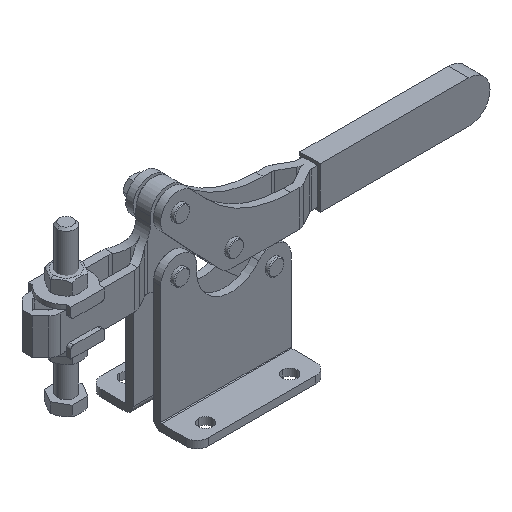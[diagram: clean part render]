
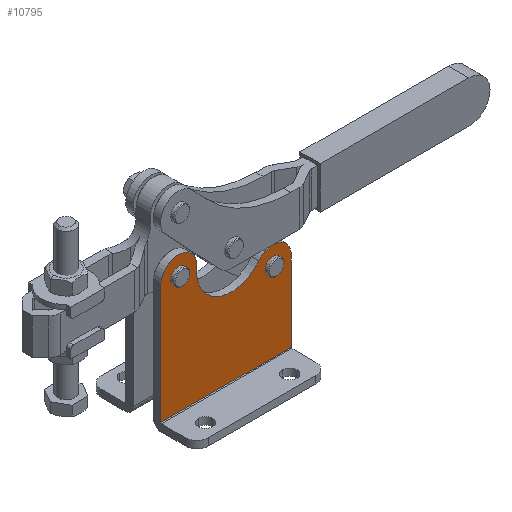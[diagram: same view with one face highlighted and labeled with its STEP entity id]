
A CAD part, isometric view. The second image highlights one B-rep face of the part: STEP entity #10795.
In plain terms, the highlighted planar face has unit normal (0, -1, 0).
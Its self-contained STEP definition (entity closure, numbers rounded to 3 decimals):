
#10500=CARTESIAN_POINT('Cartesian Point',(143.082,-12.,-21.5)) ;
#10503=CARTESIAN_POINT('Line Origine',(98.082,-12.,-21.5)) ;
#10507=CARTESIAN_POINT('Cartesian Point',(53.082,-12.,-21.5)) ;
#10569=CARTESIAN_POINT('Cartesian Point',(143.082,-12.,33.5)) ;
#10572=CARTESIAN_POINT('Line Origine',(143.082,-12.,6.)) ;
#10684=CARTESIAN_POINT('Line Origine',(53.082,-12.,19.25)) ;
#10688=CARTESIAN_POINT('Cartesian Point',(53.082,-12.,60.)) ;
#10725=CARTESIAN_POINT('Cartesian Point',(78.007,-12.,58.64)) ;
#10728=CARTESIAN_POINT('Axis2P3D Location',(101.865,-12.,56.03)) ;
#10732=CARTESIAN_POINT('Cartesian Point',(120.747,-12.,41.216)) ;
#10757=CARTESIAN_POINT('Axis2P3D Location',(130.582,-12.,33.5)) ;
#10769=CARTESIAN_POINT('Axis2P3D Location',(143.082,-12.,72.5)) ;
#10774=CARTESIAN_POINT('Axis2P3D Location',(65.582,-12.,60.)) ;
#10778=CARTESIAN_POINT('Cartesian Point',(65.582,-12.,72.5)) ;
#10781=CARTESIAN_POINT('Axis2P3D Location',(65.582,-12.,60.)) ;
#10504=DIRECTION('Vector Direction',(1.,0.,0.)) ;
#10573=DIRECTION('Vector Direction',(0.,0.,1.)) ;
#10685=DIRECTION('Vector Direction',(0.,0.,1.)) ;
#10729=DIRECTION('Axis2P3D Direction',(0.,1.,0.)) ;
#10758=DIRECTION('Axis2P3D Direction',(0.,1.,0.)) ;
#10770=DIRECTION('Axis2P3D Direction',(0.,-1.,0.)) ;
#10771=DIRECTION('Axis2P3D XDirection',(-1.,0.,0.)) ;
#10775=DIRECTION('Axis2P3D Direction',(0.,-1.,0.)) ;
#10782=DIRECTION('Axis2P3D Direction',(0.,-1.,0.)) ;
#10730=AXIS2_PLACEMENT_3D('Circle Axis2P3D',#10728,#10729,$) ;
#10759=AXIS2_PLACEMENT_3D('Circle Axis2P3D',#10757,#10758,$) ;
#10772=AXIS2_PLACEMENT_3D('Plane Axis2P3D',#10769,#10770,#10771) ;
#10776=AXIS2_PLACEMENT_3D('Circle Axis2P3D',#10774,#10775,$) ;
#10783=AXIS2_PLACEMENT_3D('Circle Axis2P3D',#10781,#10782,$) ;
#10787=ORIENTED_EDGE('Oriented Edge',*,*,#10576,.T.) ;
#10788=ORIENTED_EDGE('Oriented Edge',*,*,#10761,.F.) ;
#10789=ORIENTED_EDGE('Oriented Edge',*,*,#10734,.T.) ;
#10790=ORIENTED_EDGE('Oriented Edge',*,*,#10780,.F.) ;
#10791=ORIENTED_EDGE('Oriented Edge',*,*,#10785,.F.) ;
#10792=ORIENTED_EDGE('Oriented Edge',*,*,#10690,.F.) ;
#10793=ORIENTED_EDGE('Oriented Edge',*,*,#10509,.F.) ;
#10505=VECTOR('Line Direction',#10504,1.) ;
#10574=VECTOR('Line Direction',#10573,1.) ;
#10686=VECTOR('Line Direction',#10685,1.) ;
#10795=ADVANCED_FACE('',(#10794),#10773,.T.) ;
#10731=CIRCLE('generated circle',#10730,24.) ;
#10760=CIRCLE('generated circle',#10759,12.5) ;
#10777=CIRCLE('generated circle',#10776,12.5) ;
#10784=CIRCLE('generated circle',#10783,12.5) ;
#10509=EDGE_CURVE('',#10501,#10508,#10506,.F.) ;
#10576=EDGE_CURVE('',#10501,#10570,#10575,.T.) ;
#10690=EDGE_CURVE('',#10508,#10689,#10687,.T.) ;
#10734=EDGE_CURVE('',#10733,#10726,#10731,.T.) ;
#10761=EDGE_CURVE('',#10733,#10570,#10760,.T.) ;
#10780=EDGE_CURVE('',#10779,#10726,#10777,.F.) ;
#10785=EDGE_CURVE('',#10689,#10779,#10784,.F.) ;
#10786=EDGE_LOOP('Oriented Loop',(#10787,#10788,#10789,#10790,#10791,#10792,#10793)) ;
#10794=FACE_OUTER_BOUND('Face Bound',#10786,.T.) ;
#10506=LINE('Line',#10503,#10505) ;
#10575=LINE('Line',#10572,#10574) ;
#10687=LINE('Line',#10684,#10686) ;
#10773=PLANE('Plane',#10772) ;
#10501=VERTEX_POINT('Vertex Point',#10500) ;
#10508=VERTEX_POINT('Vertex Point',#10507) ;
#10570=VERTEX_POINT('Vertex Point',#10569) ;
#10689=VERTEX_POINT('Vertex Point',#10688) ;
#10726=VERTEX_POINT('Vertex Point',#10725) ;
#10733=VERTEX_POINT('Vertex Point',#10732) ;
#10779=VERTEX_POINT('Vertex Point',#10778) ;
